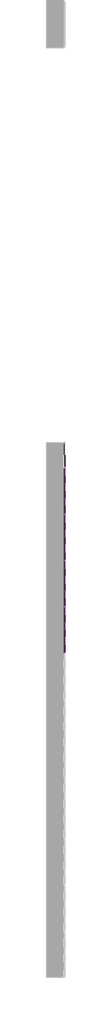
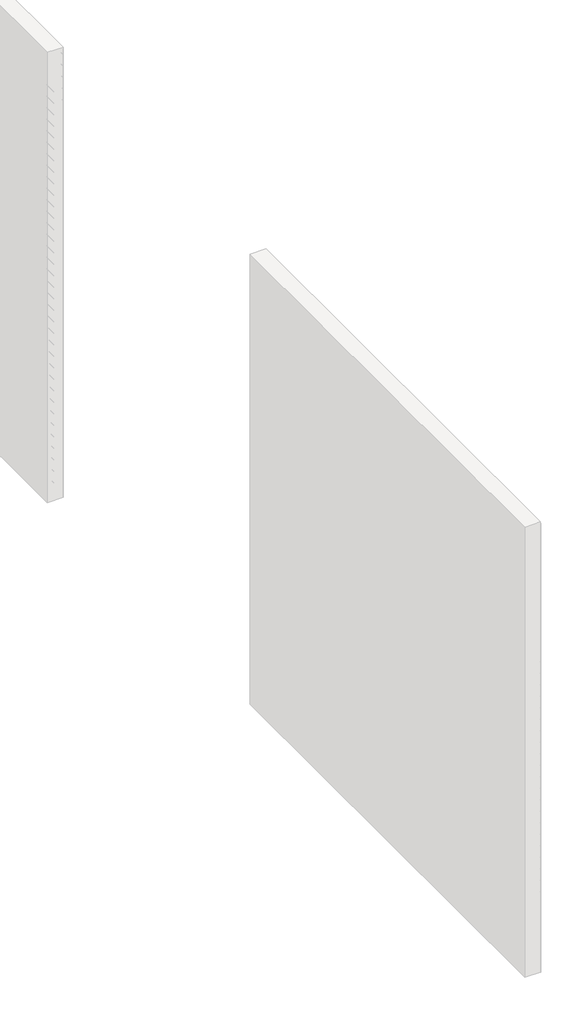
# One storey, part 11 of 45: 146 proxies.
"""IFC4 building model written with IfcOpenShell, lengths in millimetres."""

from ifc_helpers import new_model, si_unit, origin, place, context, project, spatial, transform, mapped, element, save
from components import generic_models_ab0f2c30, generic_models_1527efce

model = new_model("IFC4")

# Units and contexts
model_context = context("Model", 3, world=origin())
ifc_project = project(units=[si_unit("LENGTHUNIT", "METRE", prefix="MILLI")], contexts=[model_context])

# Site, building, storey
site = spatial("IfcSite", under=ifc_project)
building = spatial("IfcBuilding", under=site)
storey = spatial("IfcBuildingStorey", under=building, Name="PORTOBELLO - SHOWROOM", Elevation=0.0)

# Proxies
placement = place(None, origin())
generic_models_shape = generic_models_ab0f2c30(model_context)
element("IfcBuildingElementProxy", 1, Name="PBSHOP - HORIZONTES SANTORINI 6,5X23 : SANTORINI VILLA", ObjectType="PBSHOP - HORIZONTES SANTORINI 6,5X23 : SANTORINI VILLA", at=placement, inside=storey, context=model_context, shape_type="MappedRepresentation", body=[
    mapped(generic_models_shape, transform((63939.1036979, 12598.0312463, 724.5), x_axis=(0.0, 0.0, 1.0), y_axis=(0.0, -1.0, 0.0), z_axis=(1.0, 0.0, 0.0))),
])
element("IfcBuildingElementProxy", 2, Name="PBSHOP - HORIZONTES SANTORINI 6,5X23 : SANTORINI VILLA", ObjectType="PBSHOP - HORIZONTES SANTORINI 6,5X23 : SANTORINI VILLA", at=placement, inside=storey, context=model_context, shape_type="MappedRepresentation", body=[
    mapped(generic_models_shape, transform((63939.1036979, 12832.0312463, 724.5), x_axis=(0.0, 0.0, 1.0), y_axis=(0.0, -1.0, 0.0), z_axis=(1.0, 0.0, 0.0))),
])
element("IfcBuildingElementProxy", 3, Name="PBSHOP - HORIZONTES SANTORINI 6,5X23 : SANTORINI VILLA", ObjectType="PBSHOP - HORIZONTES SANTORINI 6,5X23 : SANTORINI VILLA", at=placement, inside=storey, context=model_context, shape_type="MappedRepresentation", body=[
    mapped(generic_models_shape, transform((63939.1036979, 12130.0312463, 793.5), x_axis=(0.0, 0.0, 1.0), y_axis=(0.0, -1.0, 0.0), z_axis=(1.0, 0.0, 0.0))),
])
element("IfcBuildingElementProxy", 4, Name="PBSHOP - HORIZONTES SANTORINI 6,5X23 : SANTORINI VILLA", ObjectType="PBSHOP - HORIZONTES SANTORINI 6,5X23 : SANTORINI VILLA", at=placement, inside=storey, context=model_context, shape_type="MappedRepresentation", body=[
    mapped(generic_models_shape, transform((63939.1036979, 12364.0312463, 793.5), x_axis=(0.0, 0.0, 1.0), y_axis=(0.0, -1.0, 0.0), z_axis=(1.0, 0.0, 0.0))),
])
element("IfcBuildingElementProxy", 5, Name="PBSHOP - HORIZONTES SANTORINI 6,5X23 : SANTORINI VILLA", ObjectType="PBSHOP - HORIZONTES SANTORINI 6,5X23 : SANTORINI VILLA", at=placement, inside=storey, context=model_context, shape_type="MappedRepresentation", body=[
    mapped(generic_models_shape, transform((63939.1036979, 12598.0312463, 793.5), x_axis=(0.0, 0.0, 1.0), y_axis=(0.0, -1.0, 0.0), z_axis=(1.0, 0.0, 0.0))),
])
element("IfcBuildingElementProxy", 6, Name="PBSHOP - HORIZONTES SANTORINI 6,5X23 : SANTORINI VILLA", ObjectType="PBSHOP - HORIZONTES SANTORINI 6,5X23 : SANTORINI VILLA", at=placement, inside=storey, context=model_context, shape_type="MappedRepresentation", body=[
    mapped(generic_models_shape, transform((63939.1036979, 12832.0312463, 793.5), x_axis=(0.0, 0.0, 1.0), y_axis=(0.0, -1.0, 0.0), z_axis=(1.0, 0.0, 0.0))),
])
element("IfcBuildingElementProxy", 7, Name="PBSHOP - HORIZONTES SANTORINI 6,5X23 : SANTORINI VILLA", ObjectType="PBSHOP - HORIZONTES SANTORINI 6,5X23 : SANTORINI VILLA", at=placement, inside=storey, context=model_context, shape_type="MappedRepresentation", body=[
    mapped(generic_models_shape, transform((63939.1036979, 12130.0312463, 862.5), x_axis=(0.0, 0.0, 1.0), y_axis=(0.0, -1.0, 0.0), z_axis=(1.0, 0.0, 0.0))),
])
element("IfcBuildingElementProxy", 8, Name="PBSHOP - HORIZONTES SANTORINI 6,5X23 : SANTORINI VILLA", ObjectType="PBSHOP - HORIZONTES SANTORINI 6,5X23 : SANTORINI VILLA", at=placement, inside=storey, context=model_context, shape_type="MappedRepresentation", body=[
    mapped(generic_models_shape, transform((63939.1036979, 12364.0312463, 862.5), x_axis=(0.0, 0.0, 1.0), y_axis=(0.0, -1.0, 0.0), z_axis=(1.0, 0.0, 0.0))),
])
element("IfcBuildingElementProxy", 9, Name="PBSHOP - HORIZONTES SANTORINI 6,5X23 : SANTORINI VILLA", ObjectType="PBSHOP - HORIZONTES SANTORINI 6,5X23 : SANTORINI VILLA", at=placement, inside=storey, context=model_context, shape_type="MappedRepresentation", body=[
    mapped(generic_models_shape, transform((63939.1036979, 12598.0312463, 862.5), x_axis=(0.0, 0.0, 1.0), y_axis=(0.0, -1.0, 0.0), z_axis=(1.0, 0.0, 0.0))),
])
element("IfcBuildingElementProxy", 10, Name="PBSHOP - HORIZONTES SANTORINI 6,5X23 : SANTORINI VILLA", ObjectType="PBSHOP - HORIZONTES SANTORINI 6,5X23 : SANTORINI VILLA", at=placement, inside=storey, context=model_context, shape_type="MappedRepresentation", body=[
    mapped(generic_models_shape, transform((63939.1036979, 12832.0312463, 862.5), x_axis=(0.0, 0.0, 1.0), y_axis=(0.0, -1.0, 0.0), z_axis=(1.0, 0.0, 0.0))),
])
element("IfcBuildingElementProxy", 11, Name="PBSHOP - HORIZONTES SANTORINI 6,5X23 : SANTORINI VILLA", ObjectType="PBSHOP - HORIZONTES SANTORINI 6,5X23 : SANTORINI VILLA", at=placement, inside=storey, context=model_context, shape_type="MappedRepresentation", body=[
    mapped(generic_models_shape, transform((63939.1036979, 12130.0312463, 931.5), x_axis=(0.0, 0.0, 1.0), y_axis=(0.0, -1.0, 0.0), z_axis=(1.0, 0.0, 0.0))),
])
element("IfcBuildingElementProxy", 12, Name="PBSHOP - HORIZONTES SANTORINI 6,5X23 : SANTORINI VILLA", ObjectType="PBSHOP - HORIZONTES SANTORINI 6,5X23 : SANTORINI VILLA", at=placement, inside=storey, context=model_context, shape_type="MappedRepresentation", body=[
    mapped(generic_models_shape, transform((63939.1036979, 12364.0312463, 931.5), x_axis=(0.0, 0.0, 1.0), y_axis=(0.0, -1.0, 0.0), z_axis=(1.0, 0.0, 0.0))),
])
element("IfcBuildingElementProxy", 13, Name="PBSHOP - HORIZONTES SANTORINI 6,5X23 : SANTORINI VILLA", ObjectType="PBSHOP - HORIZONTES SANTORINI 6,5X23 : SANTORINI VILLA", at=placement, inside=storey, context=model_context, shape_type="MappedRepresentation", body=[
    mapped(generic_models_shape, transform((63939.1036979, 12598.0312463, 931.5), x_axis=(0.0, 0.0, 1.0), y_axis=(0.0, -1.0, 0.0), z_axis=(1.0, 0.0, 0.0))),
])
element("IfcBuildingElementProxy", 14, Name="PBSHOP - HORIZONTES SANTORINI 6,5X23 : SANTORINI VILLA", ObjectType="PBSHOP - HORIZONTES SANTORINI 6,5X23 : SANTORINI VILLA", at=placement, inside=storey, context=model_context, shape_type="MappedRepresentation", body=[
    mapped(generic_models_shape, transform((63939.1036979, 12832.0312463, 931.5), x_axis=(0.0, 0.0, 1.0), y_axis=(0.0, -1.0, 0.0), z_axis=(1.0, 0.0, 0.0))),
])
element("IfcBuildingElementProxy", 15, Name="PBSHOP - HORIZONTES SANTORINI 6,5X23 : SANTORINI VILLA", ObjectType="PBSHOP - HORIZONTES SANTORINI 6,5X23 : SANTORINI VILLA", at=placement, inside=storey, context=model_context, shape_type="MappedRepresentation", body=[
    mapped(generic_models_shape, transform((63939.1036979, 12130.0312463, 1000.5), x_axis=(0.0, 0.0, 1.0), y_axis=(0.0, -1.0, 0.0), z_axis=(1.0, 0.0, 0.0))),
])
element("IfcBuildingElementProxy", 16, Name="PBSHOP - HORIZONTES SANTORINI 6,5X23 : SANTORINI VILLA", ObjectType="PBSHOP - HORIZONTES SANTORINI 6,5X23 : SANTORINI VILLA", at=placement, inside=storey, context=model_context, shape_type="MappedRepresentation", body=[
    mapped(generic_models_shape, transform((63939.1036979, 12364.0312463, 1000.5), x_axis=(0.0, 0.0, 1.0), y_axis=(0.0, -1.0, 0.0), z_axis=(1.0, 0.0, 0.0))),
])
element("IfcBuildingElementProxy", 17, Name="PBSHOP - HORIZONTES SANTORINI 6,5X23 : SANTORINI VILLA", ObjectType="PBSHOP - HORIZONTES SANTORINI 6,5X23 : SANTORINI VILLA", at=placement, inside=storey, context=model_context, shape_type="MappedRepresentation", body=[
    mapped(generic_models_shape, transform((63939.1036979, 12598.0312463, 1000.5), x_axis=(0.0, 0.0, 1.0), y_axis=(0.0, -1.0, 0.0), z_axis=(1.0, 0.0, 0.0))),
])
element("IfcBuildingElementProxy", 18, Name="PBSHOP - HORIZONTES SANTORINI 6,5X23 : SANTORINI VILLA", ObjectType="PBSHOP - HORIZONTES SANTORINI 6,5X23 : SANTORINI VILLA", at=placement, inside=storey, context=model_context, shape_type="MappedRepresentation", body=[
    mapped(generic_models_shape, transform((63939.1036979, 12832.0312463, 1000.5), x_axis=(0.0, 0.0, 1.0), y_axis=(0.0, -1.0, 0.0), z_axis=(1.0, 0.0, 0.0))),
])
element("IfcBuildingElementProxy", 19, Name="PBSHOP - HORIZONTES SANTORINI 6,5X23 : SANTORINI VILLA", ObjectType="PBSHOP - HORIZONTES SANTORINI 6,5X23 : SANTORINI VILLA", at=placement, inside=storey, context=model_context, shape_type="MappedRepresentation", body=[
    mapped(generic_models_shape, transform((63939.1036979, 12130.0312463, 1069.5), x_axis=(0.0, 0.0, 1.0), y_axis=(0.0, -1.0, 0.0), z_axis=(1.0, 0.0, 0.0))),
])
element("IfcBuildingElementProxy", 20, Name="PBSHOP - HORIZONTES SANTORINI 6,5X23 : SANTORINI VILLA", ObjectType="PBSHOP - HORIZONTES SANTORINI 6,5X23 : SANTORINI VILLA", at=placement, inside=storey, context=model_context, shape_type="MappedRepresentation", body=[
    mapped(generic_models_shape, transform((63939.1036979, 12364.0312463, 1069.5), x_axis=(0.0, 0.0, 1.0), y_axis=(0.0, -1.0, 0.0), z_axis=(1.0, 0.0, 0.0))),
])
element("IfcBuildingElementProxy", 21, Name="PBSHOP - HORIZONTES SANTORINI 6,5X23 : SANTORINI VILLA", ObjectType="PBSHOP - HORIZONTES SANTORINI 6,5X23 : SANTORINI VILLA", at=placement, inside=storey, context=model_context, shape_type="MappedRepresentation", body=[
    mapped(generic_models_shape, transform((63939.1036979, 12598.0312463, 1069.5), x_axis=(0.0, 0.0, 1.0), y_axis=(0.0, -1.0, 0.0), z_axis=(1.0, 0.0, 0.0))),
])
element("IfcBuildingElementProxy", 22, Name="PBSHOP - HORIZONTES SANTORINI 6,5X23 : SANTORINI VILLA", ObjectType="PBSHOP - HORIZONTES SANTORINI 6,5X23 : SANTORINI VILLA", at=placement, inside=storey, context=model_context, shape_type="MappedRepresentation", body=[
    mapped(generic_models_shape, transform((63939.1036979, 12832.0312463, 1069.5), x_axis=(0.0, 0.0, 1.0), y_axis=(0.0, -1.0, 0.0), z_axis=(1.0, 0.0, 0.0))),
])
element("IfcBuildingElementProxy", 23, Name="PBSHOP - HORIZONTES SANTORINI 6,5X23 : SANTORINI VILLA", ObjectType="PBSHOP - HORIZONTES SANTORINI 6,5X23 : SANTORINI VILLA", at=placement, inside=storey, context=model_context, shape_type="MappedRepresentation", body=[
    mapped(generic_models_shape, transform((63939.1036979, 12130.0312463, 1138.5), x_axis=(0.0, 0.0, 1.0), y_axis=(0.0, -1.0, 0.0), z_axis=(1.0, 0.0, 0.0))),
])
element("IfcBuildingElementProxy", 24, Name="PBSHOP - HORIZONTES SANTORINI 6,5X23 : SANTORINI VILLA", ObjectType="PBSHOP - HORIZONTES SANTORINI 6,5X23 : SANTORINI VILLA", at=placement, inside=storey, context=model_context, shape_type="MappedRepresentation", body=[
    mapped(generic_models_shape, transform((63939.1036979, 12364.0312463, 1138.5), x_axis=(0.0, 0.0, 1.0), y_axis=(0.0, -1.0, 0.0), z_axis=(1.0, 0.0, 0.0))),
])
element("IfcBuildingElementProxy", 25, Name="PBSHOP - HORIZONTES SANTORINI 6,5X23 : SANTORINI VILLA", ObjectType="PBSHOP - HORIZONTES SANTORINI 6,5X23 : SANTORINI VILLA", at=placement, inside=storey, context=model_context, shape_type="MappedRepresentation", body=[
    mapped(generic_models_shape, transform((63939.1036979, 12598.0312463, 1138.5), x_axis=(0.0, 0.0, 1.0), y_axis=(0.0, -1.0, 0.0), z_axis=(1.0, 0.0, 0.0))),
])
element("IfcBuildingElementProxy", 26, Name="PBSHOP - HORIZONTES SANTORINI 6,5X23 : SANTORINI VILLA", ObjectType="PBSHOP - HORIZONTES SANTORINI 6,5X23 : SANTORINI VILLA", at=placement, inside=storey, context=model_context, shape_type="MappedRepresentation", body=[
    mapped(generic_models_shape, transform((63939.1036979, 12832.0312463, 1138.5), x_axis=(0.0, 0.0, 1.0), y_axis=(0.0, -1.0, 0.0), z_axis=(1.0, 0.0, 0.0))),
])
element("IfcBuildingElementProxy", 27, Name="PBSHOP - HORIZONTES SANTORINI 6,5X23 : SANTORINI VILLA", ObjectType="PBSHOP - HORIZONTES SANTORINI 6,5X23 : SANTORINI VILLA", at=placement, inside=storey, context=model_context, shape_type="MappedRepresentation", body=[
    mapped(generic_models_shape, transform((63939.1036979, 12130.0312463, 1207.5), x_axis=(0.0, 0.0, 1.0), y_axis=(0.0, -1.0, 0.0), z_axis=(1.0, 0.0, 0.0))),
])
element("IfcBuildingElementProxy", 28, Name="PBSHOP - HORIZONTES SANTORINI 6,5X23 : SANTORINI VILLA", ObjectType="PBSHOP - HORIZONTES SANTORINI 6,5X23 : SANTORINI VILLA", at=placement, inside=storey, context=model_context, shape_type="MappedRepresentation", body=[
    mapped(generic_models_shape, transform((63939.1036979, 12364.0312463, 1207.5), x_axis=(0.0, 0.0, 1.0), y_axis=(0.0, -1.0, 0.0), z_axis=(1.0, 0.0, 0.0))),
])
element("IfcBuildingElementProxy", 29, Name="PBSHOP - HORIZONTES SANTORINI 6,5X23 : SANTORINI VILLA", ObjectType="PBSHOP - HORIZONTES SANTORINI 6,5X23 : SANTORINI VILLA", at=placement, inside=storey, context=model_context, shape_type="MappedRepresentation", body=[
    mapped(generic_models_shape, transform((63939.1036979, 12598.0312463, 1207.5), x_axis=(0.0, 0.0, 1.0), y_axis=(0.0, -1.0, 0.0), z_axis=(1.0, 0.0, 0.0))),
])
element("IfcBuildingElementProxy", 30, Name="PBSHOP - HORIZONTES SANTORINI 6,5X23 : SANTORINI VILLA", ObjectType="PBSHOP - HORIZONTES SANTORINI 6,5X23 : SANTORINI VILLA", at=placement, inside=storey, context=model_context, shape_type="MappedRepresentation", body=[
    mapped(generic_models_shape, transform((63939.1036979, 12832.0312463, 1207.5), x_axis=(0.0, 0.0, 1.0), y_axis=(0.0, -1.0, 0.0), z_axis=(1.0, 0.0, 0.0))),
])
element("IfcBuildingElementProxy", 31, Name="PBSHOP - HORIZONTES SANTORINI 6,5X23 : SANTORINI VILLA", ObjectType="PBSHOP - HORIZONTES SANTORINI 6,5X23 : SANTORINI VILLA", at=placement, inside=storey, context=model_context, shape_type="MappedRepresentation", body=[
    mapped(generic_models_shape, transform((63939.1036979, 12130.0312463, 1276.5), x_axis=(0.0, 0.0, 1.0), y_axis=(0.0, -1.0, 0.0), z_axis=(1.0, 0.0, 0.0))),
])
element("IfcBuildingElementProxy", 32, Name="PBSHOP - HORIZONTES SANTORINI 6,5X23 : SANTORINI VILLA", ObjectType="PBSHOP - HORIZONTES SANTORINI 6,5X23 : SANTORINI VILLA", at=placement, inside=storey, context=model_context, shape_type="MappedRepresentation", body=[
    mapped(generic_models_shape, transform((63939.1036979, 12364.0312463, 1276.5), x_axis=(0.0, 0.0, 1.0), y_axis=(0.0, -1.0, 0.0), z_axis=(1.0, 0.0, 0.0))),
])
element("IfcBuildingElementProxy", 33, Name="PBSHOP - HORIZONTES SANTORINI 6,5X23 : SANTORINI VILLA", ObjectType="PBSHOP - HORIZONTES SANTORINI 6,5X23 : SANTORINI VILLA", at=placement, inside=storey, context=model_context, shape_type="MappedRepresentation", body=[
    mapped(generic_models_shape, transform((63939.1036979, 12598.0312463, 1276.5), x_axis=(0.0, 0.0, 1.0), y_axis=(0.0, -1.0, 0.0), z_axis=(1.0, 0.0, 0.0))),
])
element("IfcBuildingElementProxy", 34, Name="PBSHOP - HORIZONTES SANTORINI 6,5X23 : SANTORINI VILLA", ObjectType="PBSHOP - HORIZONTES SANTORINI 6,5X23 : SANTORINI VILLA", at=placement, inside=storey, context=model_context, shape_type="MappedRepresentation", body=[
    mapped(generic_models_shape, transform((63939.1036979, 12832.0312463, 1276.5), x_axis=(0.0, 0.0, 1.0), y_axis=(0.0, -1.0, 0.0), z_axis=(1.0, 0.0, 0.0))),
])
element("IfcBuildingElementProxy", 35, Name="PBSHOP - HORIZONTES SANTORINI 6,5X23 : SANTORINI VILLA", ObjectType="PBSHOP - HORIZONTES SANTORINI 6,5X23 : SANTORINI VILLA", at=placement, inside=storey, context=model_context, shape_type="MappedRepresentation", body=[
    mapped(generic_models_shape, transform((63939.1036979, 12130.0312463, 1345.5), x_axis=(0.0, 0.0, 1.0), y_axis=(0.0, -1.0, 0.0), z_axis=(1.0, 0.0, 0.0))),
])
element("IfcBuildingElementProxy", 36, Name="PBSHOP - HORIZONTES SANTORINI 6,5X23 : SANTORINI VILLA", ObjectType="PBSHOP - HORIZONTES SANTORINI 6,5X23 : SANTORINI VILLA", at=placement, inside=storey, context=model_context, shape_type="MappedRepresentation", body=[
    mapped(generic_models_shape, transform((63939.1036979, 12364.0312463, 1345.5), x_axis=(0.0, 0.0, 1.0), y_axis=(0.0, -1.0, 0.0), z_axis=(1.0, 0.0, 0.0))),
])
element("IfcBuildingElementProxy", 37, Name="PBSHOP - HORIZONTES SANTORINI 6,5X23 : SANTORINI VILLA", ObjectType="PBSHOP - HORIZONTES SANTORINI 6,5X23 : SANTORINI VILLA", at=placement, inside=storey, context=model_context, shape_type="MappedRepresentation", body=[
    mapped(generic_models_shape, transform((63939.1036979, 12598.0312463, 1345.5), x_axis=(0.0, 0.0, 1.0), y_axis=(0.0, -1.0, 0.0), z_axis=(1.0, 0.0, 0.0))),
])
element("IfcBuildingElementProxy", 38, Name="PBSHOP - HORIZONTES SANTORINI 6,5X23 : SANTORINI VILLA", ObjectType="PBSHOP - HORIZONTES SANTORINI 6,5X23 : SANTORINI VILLA", at=placement, inside=storey, context=model_context, shape_type="MappedRepresentation", body=[
    mapped(generic_models_shape, transform((63939.1036979, 12832.0312463, 1345.5), x_axis=(0.0, 0.0, 1.0), y_axis=(0.0, -1.0, 0.0), z_axis=(1.0, 0.0, 0.0))),
])
element("IfcBuildingElementProxy", 39, Name="PBSHOP - HORIZONTES SANTORINI 6,5X23 : SANTORINI VILLA", ObjectType="PBSHOP - HORIZONTES SANTORINI 6,5X23 : SANTORINI VILLA", at=placement, inside=storey, context=model_context, shape_type="MappedRepresentation", body=[
    mapped(generic_models_shape, transform((63939.1036979, 12130.0312463, 1414.5), x_axis=(0.0, 0.0, 1.0), y_axis=(0.0, -1.0, 0.0), z_axis=(1.0, 0.0, 0.0))),
])
element("IfcBuildingElementProxy", 40, Name="PBSHOP - HORIZONTES SANTORINI 6,5X23 : SANTORINI VILLA", ObjectType="PBSHOP - HORIZONTES SANTORINI 6,5X23 : SANTORINI VILLA", at=placement, inside=storey, context=model_context, shape_type="MappedRepresentation", body=[
    mapped(generic_models_shape, transform((63939.1036979, 12364.0312463, 1414.5), x_axis=(0.0, 0.0, 1.0), y_axis=(0.0, -1.0, 0.0), z_axis=(1.0, 0.0, 0.0))),
])
element("IfcBuildingElementProxy", 41, Name="PBSHOP - HORIZONTES SANTORINI 6,5X23 : SANTORINI VILLA", ObjectType="PBSHOP - HORIZONTES SANTORINI 6,5X23 : SANTORINI VILLA", at=placement, inside=storey, context=model_context, shape_type="MappedRepresentation", body=[
    mapped(generic_models_shape, transform((63939.1036979, 12598.0312463, 1414.5), x_axis=(0.0, 0.0, 1.0), y_axis=(0.0, -1.0, 0.0), z_axis=(1.0, 0.0, 0.0))),
])
element("IfcBuildingElementProxy", 42, Name="PBSHOP - HORIZONTES SANTORINI 6,5X23 : SANTORINI VILLA", ObjectType="PBSHOP - HORIZONTES SANTORINI 6,5X23 : SANTORINI VILLA", at=placement, inside=storey, context=model_context, shape_type="MappedRepresentation", body=[
    mapped(generic_models_shape, transform((63939.1036979, 12832.0312463, 1414.5), x_axis=(0.0, 0.0, 1.0), y_axis=(0.0, -1.0, 0.0), z_axis=(1.0, 0.0, 0.0))),
])
element("IfcBuildingElementProxy", 43, Name="PBSHOP - HORIZONTES SANTORINI 6,5X23 : SANTORINI VILLA", ObjectType="PBSHOP - HORIZONTES SANTORINI 6,5X23 : SANTORINI VILLA", at=placement, inside=storey, context=model_context, shape_type="MappedRepresentation", body=[
    mapped(generic_models_shape, transform((63939.1036979, 12130.0312463, 1483.5), x_axis=(0.0, 0.0, 1.0), y_axis=(0.0, -1.0, 0.0), z_axis=(1.0, 0.0, 0.0))),
])
element("IfcBuildingElementProxy", 44, Name="PBSHOP - HORIZONTES SANTORINI 6,5X23 : SANTORINI VILLA", ObjectType="PBSHOP - HORIZONTES SANTORINI 6,5X23 : SANTORINI VILLA", at=placement, inside=storey, context=model_context, shape_type="MappedRepresentation", body=[
    mapped(generic_models_shape, transform((63939.1036979, 12364.0312463, 1483.5), x_axis=(0.0, 0.0, 1.0), y_axis=(0.0, -1.0, 0.0), z_axis=(1.0, 0.0, 0.0))),
])
element("IfcBuildingElementProxy", 45, Name="PBSHOP - HORIZONTES SANTORINI 6,5X23 : SANTORINI VILLA", ObjectType="PBSHOP - HORIZONTES SANTORINI 6,5X23 : SANTORINI VILLA", at=placement, inside=storey, context=model_context, shape_type="MappedRepresentation", body=[
    mapped(generic_models_shape, transform((63939.1036979, 12598.0312463, 1483.5), x_axis=(0.0, 0.0, 1.0), y_axis=(0.0, -1.0, 0.0), z_axis=(1.0, 0.0, 0.0))),
])
element("IfcBuildingElementProxy", 46, Name="PBSHOP - HORIZONTES SANTORINI 6,5X23 : SANTORINI VILLA", ObjectType="PBSHOP - HORIZONTES SANTORINI 6,5X23 : SANTORINI VILLA", at=placement, inside=storey, context=model_context, shape_type="MappedRepresentation", body=[
    mapped(generic_models_shape, transform((63939.1036979, 12832.0312463, 1483.5), x_axis=(0.0, 0.0, 1.0), y_axis=(0.0, -1.0, 0.0), z_axis=(1.0, 0.0, 0.0))),
])
element("IfcBuildingElementProxy", 47, Name="PBSHOP - HORIZONTES SANTORINI 6,5X23 : SANTORINI VILLA", ObjectType="PBSHOP - HORIZONTES SANTORINI 6,5X23 : SANTORINI VILLA", at=placement, inside=storey, context=model_context, shape_type="MappedRepresentation", body=[
    mapped(generic_models_shape, transform((63939.1036979, 12130.0312463, 1552.5), x_axis=(0.0, 0.0, 1.0), y_axis=(0.0, -1.0, 0.0), z_axis=(1.0, 0.0, 0.0))),
])
element("IfcBuildingElementProxy", 48, Name="PBSHOP - HORIZONTES SANTORINI 6,5X23 : SANTORINI VILLA", ObjectType="PBSHOP - HORIZONTES SANTORINI 6,5X23 : SANTORINI VILLA", at=placement, inside=storey, context=model_context, shape_type="MappedRepresentation", body=[
    mapped(generic_models_shape, transform((63939.1036979, 12364.0312463, 1552.5), x_axis=(0.0, 0.0, 1.0), y_axis=(0.0, -1.0, 0.0), z_axis=(1.0, 0.0, 0.0))),
])
element("IfcBuildingElementProxy", 49, Name="PBSHOP - HORIZONTES SANTORINI 6,5X23 : SANTORINI VILLA", ObjectType="PBSHOP - HORIZONTES SANTORINI 6,5X23 : SANTORINI VILLA", at=placement, inside=storey, context=model_context, shape_type="MappedRepresentation", body=[
    mapped(generic_models_shape, transform((63939.1036979, 12598.0312463, 1552.5), x_axis=(0.0, 0.0, 1.0), y_axis=(0.0, -1.0, 0.0), z_axis=(1.0, 0.0, 0.0))),
])
element("IfcBuildingElementProxy", 50, Name="PBSHOP - HORIZONTES SANTORINI 6,5X23 : SANTORINI VILLA", ObjectType="PBSHOP - HORIZONTES SANTORINI 6,5X23 : SANTORINI VILLA", at=placement, inside=storey, context=model_context, shape_type="MappedRepresentation", body=[
    mapped(generic_models_shape, transform((63939.1036979, 12832.0312463, 1552.5), x_axis=(0.0, 0.0, 1.0), y_axis=(0.0, -1.0, 0.0), z_axis=(1.0, 0.0, 0.0))),
])
element("IfcBuildingElementProxy", 51, Name="PBSHOP - HORIZONTES SANTORINI 6,5X23 : SANTORINI VILLA", ObjectType="PBSHOP - HORIZONTES SANTORINI 6,5X23 : SANTORINI VILLA", at=placement, inside=storey, context=model_context, shape_type="MappedRepresentation", body=[
    mapped(generic_models_shape, transform((63939.1036979, 12130.0312463, 1621.5), x_axis=(0.0, 0.0, 1.0), y_axis=(0.0, -1.0, 0.0), z_axis=(1.0, 0.0, 0.0))),
])
element("IfcBuildingElementProxy", 52, Name="PBSHOP - HORIZONTES SANTORINI 6,5X23 : SANTORINI VILLA", ObjectType="PBSHOP - HORIZONTES SANTORINI 6,5X23 : SANTORINI VILLA", at=placement, inside=storey, context=model_context, shape_type="MappedRepresentation", body=[
    mapped(generic_models_shape, transform((63939.1036979, 12364.0312463, 1621.5), x_axis=(0.0, 0.0, 1.0), y_axis=(0.0, -1.0, 0.0), z_axis=(1.0, 0.0, 0.0))),
])
element("IfcBuildingElementProxy", 53, Name="PBSHOP - HORIZONTES SANTORINI 6,5X23 : SANTORINI VILLA", ObjectType="PBSHOP - HORIZONTES SANTORINI 6,5X23 : SANTORINI VILLA", at=placement, inside=storey, context=model_context, shape_type="MappedRepresentation", body=[
    mapped(generic_models_shape, transform((63939.1036979, 12598.0312463, 1621.5), x_axis=(0.0, 0.0, 1.0), y_axis=(0.0, -1.0, 0.0), z_axis=(1.0, 0.0, 0.0))),
])
element("IfcBuildingElementProxy", 54, Name="PBSHOP - HORIZONTES SANTORINI 6,5X23 : SANTORINI VILLA", ObjectType="PBSHOP - HORIZONTES SANTORINI 6,5X23 : SANTORINI VILLA", at=placement, inside=storey, context=model_context, shape_type="MappedRepresentation", body=[
    mapped(generic_models_shape, transform((63939.1036979, 12832.0312463, 1621.5), x_axis=(0.0, 0.0, 1.0), y_axis=(0.0, -1.0, 0.0), z_axis=(1.0, 0.0, 0.0))),
])
element("IfcBuildingElementProxy", 55, Name="PBSHOP - HORIZONTES SANTORINI 6,5X23 : SANTORINI VILLA", ObjectType="PBSHOP - HORIZONTES SANTORINI 6,5X23 : SANTORINI VILLA", at=placement, inside=storey, context=model_context, shape_type="MappedRepresentation", body=[
    mapped(generic_models_shape, transform((63939.1036979, 12130.0312463, 1690.5), x_axis=(0.0, 0.0, 1.0), y_axis=(0.0, -1.0, 0.0), z_axis=(1.0, 0.0, 0.0))),
])
element("IfcBuildingElementProxy", 56, Name="PBSHOP - HORIZONTES SANTORINI 6,5X23 : SANTORINI VILLA", ObjectType="PBSHOP - HORIZONTES SANTORINI 6,5X23 : SANTORINI VILLA", at=placement, inside=storey, context=model_context, shape_type="MappedRepresentation", body=[
    mapped(generic_models_shape, transform((63939.1036979, 12364.0312463, 1690.5), x_axis=(0.0, 0.0, 1.0), y_axis=(0.0, -1.0, 0.0), z_axis=(1.0, 0.0, 0.0))),
])
element("IfcBuildingElementProxy", 57, Name="PBSHOP - HORIZONTES SANTORINI 6,5X23 : SANTORINI VILLA", ObjectType="PBSHOP - HORIZONTES SANTORINI 6,5X23 : SANTORINI VILLA", at=placement, inside=storey, context=model_context, shape_type="MappedRepresentation", body=[
    mapped(generic_models_shape, transform((63939.1036979, 12598.0312463, 1690.5), x_axis=(0.0, 0.0, 1.0), y_axis=(0.0, -1.0, 0.0), z_axis=(1.0, 0.0, 0.0))),
])
element("IfcBuildingElementProxy", 58, Name="PBSHOP - HORIZONTES SANTORINI 6,5X23 : SANTORINI VILLA", ObjectType="PBSHOP - HORIZONTES SANTORINI 6,5X23 : SANTORINI VILLA", at=placement, inside=storey, context=model_context, shape_type="MappedRepresentation", body=[
    mapped(generic_models_shape, transform((63939.1036979, 12832.0312463, 1690.5), x_axis=(0.0, 0.0, 1.0), y_axis=(0.0, -1.0, 0.0), z_axis=(1.0, 0.0, 0.0))),
])
element("IfcBuildingElementProxy", 59, Name="PBSHOP - HORIZONTES SANTORINI 6,5X23 : SANTORINI VILLA", ObjectType="PBSHOP - HORIZONTES SANTORINI 6,5X23 : SANTORINI VILLA", at=placement, inside=storey, context=model_context, shape_type="MappedRepresentation", body=[
    mapped(generic_models_shape, transform((63939.1036979, 12130.0312463, 1759.5), x_axis=(0.0, 0.0, 1.0), y_axis=(0.0, -1.0, 0.0), z_axis=(1.0, 0.0, 0.0))),
])
element("IfcBuildingElementProxy", 60, Name="PBSHOP - HORIZONTES SANTORINI 6,5X23 : SANTORINI VILLA", ObjectType="PBSHOP - HORIZONTES SANTORINI 6,5X23 : SANTORINI VILLA", at=placement, inside=storey, context=model_context, shape_type="MappedRepresentation", body=[
    mapped(generic_models_shape, transform((63939.1036979, 12364.0312463, 1759.5), x_axis=(0.0, 0.0, 1.0), y_axis=(0.0, -1.0, 0.0), z_axis=(1.0, 0.0, 0.0))),
])
element("IfcBuildingElementProxy", 61, Name="PBSHOP - HORIZONTES SANTORINI 6,5X23 : SANTORINI VILLA", ObjectType="PBSHOP - HORIZONTES SANTORINI 6,5X23 : SANTORINI VILLA", at=placement, inside=storey, context=model_context, shape_type="MappedRepresentation", body=[
    mapped(generic_models_shape, transform((63939.1036979, 12598.0312463, 1759.5), x_axis=(0.0, 0.0, 1.0), y_axis=(0.0, -1.0, 0.0), z_axis=(1.0, 0.0, 0.0))),
])
element("IfcBuildingElementProxy", 62, Name="PBSHOP - HORIZONTES SANTORINI 6,5X23 : SANTORINI VILLA", ObjectType="PBSHOP - HORIZONTES SANTORINI 6,5X23 : SANTORINI VILLA", at=placement, inside=storey, context=model_context, shape_type="MappedRepresentation", body=[
    mapped(generic_models_shape, transform((63939.1036979, 12832.0312463, 1759.5), x_axis=(0.0, 0.0, 1.0), y_axis=(0.0, -1.0, 0.0), z_axis=(1.0, 0.0, 0.0))),
])
element("IfcBuildingElementProxy", 63, Name="PBSHOP - HORIZONTES SANTORINI 6,5X23 : SANTORINI VILLA", ObjectType="PBSHOP - HORIZONTES SANTORINI 6,5X23 : SANTORINI VILLA", at=placement, inside=storey, context=model_context, shape_type="MappedRepresentation", body=[
    mapped(generic_models_shape, transform((63939.1036979, 12130.0312463, 1828.5), x_axis=(0.0, 0.0, 1.0), y_axis=(0.0, -1.0, 0.0), z_axis=(1.0, 0.0, 0.0))),
])
element("IfcBuildingElementProxy", 64, Name="PBSHOP - HORIZONTES SANTORINI 6,5X23 : SANTORINI VILLA", ObjectType="PBSHOP - HORIZONTES SANTORINI 6,5X23 : SANTORINI VILLA", at=placement, inside=storey, context=model_context, shape_type="MappedRepresentation", body=[
    mapped(generic_models_shape, transform((63939.1036979, 12364.0312463, 1828.5), x_axis=(0.0, 0.0, 1.0), y_axis=(0.0, -1.0, 0.0), z_axis=(1.0, 0.0, 0.0))),
])
element("IfcBuildingElementProxy", 65, Name="PBSHOP - HORIZONTES SANTORINI 6,5X23 : SANTORINI VILLA", ObjectType="PBSHOP - HORIZONTES SANTORINI 6,5X23 : SANTORINI VILLA", at=placement, inside=storey, context=model_context, shape_type="MappedRepresentation", body=[
    mapped(generic_models_shape, transform((63939.1036979, 12598.0312463, 1828.5), x_axis=(0.0, 0.0, 1.0), y_axis=(0.0, -1.0, 0.0), z_axis=(1.0, 0.0, 0.0))),
])
element("IfcBuildingElementProxy", 66, Name="PBSHOP - HORIZONTES SANTORINI 6,5X23 : SANTORINI VILLA", ObjectType="PBSHOP - HORIZONTES SANTORINI 6,5X23 : SANTORINI VILLA", at=placement, inside=storey, context=model_context, shape_type="MappedRepresentation", body=[
    mapped(generic_models_shape, transform((63939.1036979, 12832.0312463, 1828.5), x_axis=(0.0, 0.0, 1.0), y_axis=(0.0, -1.0, 0.0), z_axis=(1.0, 0.0, 0.0))),
])
element("IfcBuildingElementProxy", 67, Name="PBSHOP - HORIZONTES SANTORINI 6,5X23 : SANTORINI VILLA", ObjectType="PBSHOP - HORIZONTES SANTORINI 6,5X23 : SANTORINI VILLA", at=placement, inside=storey, context=model_context, shape_type="MappedRepresentation", body=[
    mapped(generic_models_shape, transform((63939.1036979, 12130.0312463, 1897.5), x_axis=(0.0, 0.0, 1.0), y_axis=(0.0, -1.0, 0.0), z_axis=(1.0, 0.0, 0.0))),
])
element("IfcBuildingElementProxy", 68, Name="PBSHOP - HORIZONTES SANTORINI 6,5X23 : SANTORINI VILLA", ObjectType="PBSHOP - HORIZONTES SANTORINI 6,5X23 : SANTORINI VILLA", at=placement, inside=storey, context=model_context, shape_type="MappedRepresentation", body=[
    mapped(generic_models_shape, transform((63939.1036979, 12364.0312463, 1897.5), x_axis=(0.0, 0.0, 1.0), y_axis=(0.0, -1.0, 0.0), z_axis=(1.0, 0.0, 0.0))),
])
element("IfcBuildingElementProxy", 69, Name="PBSHOP - HORIZONTES SANTORINI 6,5X23 : SANTORINI VILLA", ObjectType="PBSHOP - HORIZONTES SANTORINI 6,5X23 : SANTORINI VILLA", at=placement, inside=storey, context=model_context, shape_type="MappedRepresentation", body=[
    mapped(generic_models_shape, transform((63939.1036979, 12598.0312463, 1897.5), x_axis=(0.0, 0.0, 1.0), y_axis=(0.0, -1.0, 0.0), z_axis=(1.0, 0.0, 0.0))),
])
element("IfcBuildingElementProxy", 70, Name="PBSHOP - HORIZONTES SANTORINI 6,5X23 : SANTORINI VILLA", ObjectType="PBSHOP - HORIZONTES SANTORINI 6,5X23 : SANTORINI VILLA", at=placement, inside=storey, context=model_context, shape_type="MappedRepresentation", body=[
    mapped(generic_models_shape, transform((63939.1036979, 12832.0312463, 1897.5), x_axis=(0.0, 0.0, 1.0), y_axis=(0.0, -1.0, 0.0), z_axis=(1.0, 0.0, 0.0))),
])
element("IfcBuildingElementProxy", 71, Name="PBSHOP - HORIZONTES SANTORINI 6,5X23 : SANTORINI VILLA", ObjectType="PBSHOP - HORIZONTES SANTORINI 6,5X23 : SANTORINI VILLA", at=placement, inside=storey, context=model_context, shape_type="MappedRepresentation", body=[
    mapped(generic_models_shape, transform((63939.1036979, 12130.0312463, 1966.5), x_axis=(0.0, 0.0, 1.0), y_axis=(0.0, -1.0, 0.0), z_axis=(1.0, 0.0, 0.0))),
])
element("IfcBuildingElementProxy", 72, Name="PBSHOP - HORIZONTES SANTORINI 6,5X23 : SANTORINI VILLA", ObjectType="PBSHOP - HORIZONTES SANTORINI 6,5X23 : SANTORINI VILLA", at=placement, inside=storey, context=model_context, shape_type="MappedRepresentation", body=[
    mapped(generic_models_shape, transform((63939.1036979, 12364.0312463, 1966.5), x_axis=(0.0, 0.0, 1.0), y_axis=(0.0, -1.0, 0.0), z_axis=(1.0, 0.0, 0.0))),
])
element("IfcBuildingElementProxy", 73, Name="PBSHOP - HORIZONTES SANTORINI 6,5X23 : SANTORINI VILLA", ObjectType="PBSHOP - HORIZONTES SANTORINI 6,5X23 : SANTORINI VILLA", at=placement, inside=storey, context=model_context, shape_type="MappedRepresentation", body=[
    mapped(generic_models_shape, transform((63939.1036979, 12598.0312463, 1966.5), x_axis=(0.0, 0.0, 1.0), y_axis=(0.0, -1.0, 0.0), z_axis=(1.0, 0.0, 0.0))),
])
element("IfcBuildingElementProxy", 74, Name="PBSHOP - HORIZONTES SANTORINI 6,5X23 : SANTORINI VILLA", ObjectType="PBSHOP - HORIZONTES SANTORINI 6,5X23 : SANTORINI VILLA", at=placement, inside=storey, context=model_context, shape_type="MappedRepresentation", body=[
    mapped(generic_models_shape, transform((63939.1036979, 12832.0312463, 1966.5), x_axis=(0.0, 0.0, 1.0), y_axis=(0.0, -1.0, 0.0), z_axis=(1.0, 0.0, 0.0))),
])
element("IfcBuildingElementProxy", 75, Name="PBSHOP - HORIZONTES SANTORINI 6,5X23 : SANTORINI VILLA", ObjectType="PBSHOP - HORIZONTES SANTORINI 6,5X23 : SANTORINI VILLA", at=placement, inside=storey, context=model_context, shape_type="MappedRepresentation", body=[
    mapped(generic_models_shape, transform((63939.1036979, 12130.0312463, 2035.5), x_axis=(0.0, 0.0, 1.0), y_axis=(0.0, -1.0, 0.0), z_axis=(1.0, 0.0, 0.0))),
])
element("IfcBuildingElementProxy", 76, Name="PBSHOP - HORIZONTES SANTORINI 6,5X23 : SANTORINI VILLA", ObjectType="PBSHOP - HORIZONTES SANTORINI 6,5X23 : SANTORINI VILLA", at=placement, inside=storey, context=model_context, shape_type="MappedRepresentation", body=[
    mapped(generic_models_shape, transform((63939.1036979, 12364.0312463, 2035.5), x_axis=(0.0, 0.0, 1.0), y_axis=(0.0, -1.0, 0.0), z_axis=(1.0, 0.0, 0.0))),
])
element("IfcBuildingElementProxy", 77, Name="PBSHOP - HORIZONTES SANTORINI 6,5X23 : SANTORINI VILLA", ObjectType="PBSHOP - HORIZONTES SANTORINI 6,5X23 : SANTORINI VILLA", at=placement, inside=storey, context=model_context, shape_type="MappedRepresentation", body=[
    mapped(generic_models_shape, transform((63939.1036979, 12598.0312463, 2035.5), x_axis=(0.0, 0.0, 1.0), y_axis=(0.0, -1.0, 0.0), z_axis=(1.0, 0.0, 0.0))),
])
element("IfcBuildingElementProxy", 78, Name="PBSHOP - HORIZONTES SANTORINI 6,5X23 : SANTORINI VILLA", ObjectType="PBSHOP - HORIZONTES SANTORINI 6,5X23 : SANTORINI VILLA", at=placement, inside=storey, context=model_context, shape_type="MappedRepresentation", body=[
    mapped(generic_models_shape, transform((63939.1036979, 12832.0312463, 2035.5), x_axis=(0.0, 0.0, 1.0), y_axis=(0.0, -1.0, 0.0), z_axis=(1.0, 0.0, 0.0))),
])
element("IfcBuildingElementProxy", 79, Name="PBSHOP - HORIZONTES SANTORINI 6,5X23 : SANTORINI VILLA", ObjectType="PBSHOP - HORIZONTES SANTORINI 6,5X23 : SANTORINI VILLA", at=placement, inside=storey, context=model_context, shape_type="MappedRepresentation", body=[
    mapped(generic_models_shape, transform((63939.1036979, 12130.0312463, 2104.5), x_axis=(0.0, 0.0, 1.0), y_axis=(0.0, -1.0, 0.0), z_axis=(1.0, 0.0, 0.0))),
])
element("IfcBuildingElementProxy", 80, Name="PBSHOP - HORIZONTES SANTORINI 6,5X23 : SANTORINI VILLA", ObjectType="PBSHOP - HORIZONTES SANTORINI 6,5X23 : SANTORINI VILLA", at=placement, inside=storey, context=model_context, shape_type="MappedRepresentation", body=[
    mapped(generic_models_shape, transform((63939.1036979, 12364.0312463, 2104.5), x_axis=(0.0, 0.0, 1.0), y_axis=(0.0, -1.0, 0.0), z_axis=(1.0, 0.0, 0.0))),
])
element("IfcBuildingElementProxy", 81, Name="PBSHOP - HORIZONTES SANTORINI 6,5X23 : SANTORINI VILLA", ObjectType="PBSHOP - HORIZONTES SANTORINI 6,5X23 : SANTORINI VILLA", at=placement, inside=storey, context=model_context, shape_type="MappedRepresentation", body=[
    mapped(generic_models_shape, transform((63939.1036979, 12598.0312463, 2104.5), x_axis=(0.0, 0.0, 1.0), y_axis=(0.0, -1.0, 0.0), z_axis=(1.0, 0.0, 0.0))),
])
element("IfcBuildingElementProxy", 82, Name="PBSHOP - HORIZONTES SANTORINI 6,5X23 : SANTORINI VILLA", ObjectType="PBSHOP - HORIZONTES SANTORINI 6,5X23 : SANTORINI VILLA", at=placement, inside=storey, context=model_context, shape_type="MappedRepresentation", body=[
    mapped(generic_models_shape, transform((63939.1036979, 12832.0312463, 2104.5), x_axis=(0.0, 0.0, 1.0), y_axis=(0.0, -1.0, 0.0), z_axis=(1.0, 0.0, 0.0))),
])
element("IfcBuildingElementProxy", 83, Name="PBSHOP - HORIZONTES SANTORINI 6,5X23 : SANTORINI VILLA", ObjectType="PBSHOP - HORIZONTES SANTORINI 6,5X23 : SANTORINI VILLA", at=placement, inside=storey, context=model_context, shape_type="MappedRepresentation", body=[
    mapped(generic_models_shape, transform((63939.1036979, 12130.0312463, 2173.5), x_axis=(0.0, 0.0, 1.0), y_axis=(0.0, -1.0, 0.0), z_axis=(1.0, 0.0, 0.0))),
])
element("IfcBuildingElementProxy", 84, Name="PBSHOP - HORIZONTES SANTORINI 6,5X23 : SANTORINI VILLA", ObjectType="PBSHOP - HORIZONTES SANTORINI 6,5X23 : SANTORINI VILLA", at=placement, inside=storey, context=model_context, shape_type="MappedRepresentation", body=[
    mapped(generic_models_shape, transform((63939.1036979, 12364.0312463, 2173.5), x_axis=(0.0, 0.0, 1.0), y_axis=(0.0, -1.0, 0.0), z_axis=(1.0, 0.0, 0.0))),
])
element("IfcBuildingElementProxy", 85, Name="PBSHOP - HORIZONTES SANTORINI 6,5X23 : SANTORINI VILLA", ObjectType="PBSHOP - HORIZONTES SANTORINI 6,5X23 : SANTORINI VILLA", at=placement, inside=storey, context=model_context, shape_type="MappedRepresentation", body=[
    mapped(generic_models_shape, transform((63939.1036979, 12598.0312463, 2173.5), x_axis=(0.0, 0.0, 1.0), y_axis=(0.0, -1.0, 0.0), z_axis=(1.0, 0.0, 0.0))),
])
element("IfcBuildingElementProxy", 86, Name="PBSHOP - HORIZONTES SANTORINI 6,5X23 : SANTORINI VILLA", ObjectType="PBSHOP - HORIZONTES SANTORINI 6,5X23 : SANTORINI VILLA", at=placement, inside=storey, context=model_context, shape_type="MappedRepresentation", body=[
    mapped(generic_models_shape, transform((63939.1036979, 12832.0312463, 2173.5), x_axis=(0.0, 0.0, 1.0), y_axis=(0.0, -1.0, 0.0), z_axis=(1.0, 0.0, 0.0))),
])
element("IfcBuildingElementProxy", 87, Name="PBSHOP - HORIZONTES SANTORINI 6,5X23 : SANTORINI VILLA", ObjectType="PBSHOP - HORIZONTES SANTORINI 6,5X23 : SANTORINI VILLA", at=placement, inside=storey, context=model_context, shape_type="MappedRepresentation", body=[
    mapped(generic_models_shape, transform((63939.1036979, 12130.0312463, 2242.5), x_axis=(0.0, 0.0, 1.0), y_axis=(0.0, -1.0, 0.0), z_axis=(1.0, 0.0, 0.0))),
])
element("IfcBuildingElementProxy", 88, Name="PBSHOP - HORIZONTES SANTORINI 6,5X23 : SANTORINI VILLA", ObjectType="PBSHOP - HORIZONTES SANTORINI 6,5X23 : SANTORINI VILLA", at=placement, inside=storey, context=model_context, shape_type="MappedRepresentation", body=[
    mapped(generic_models_shape, transform((63939.1036979, 12364.0312463, 2242.5), x_axis=(0.0, 0.0, 1.0), y_axis=(0.0, -1.0, 0.0), z_axis=(1.0, 0.0, 0.0))),
])
element("IfcBuildingElementProxy", 89, Name="PBSHOP - HORIZONTES SANTORINI 6,5X23 : SANTORINI VILLA", ObjectType="PBSHOP - HORIZONTES SANTORINI 6,5X23 : SANTORINI VILLA", at=placement, inside=storey, context=model_context, shape_type="MappedRepresentation", body=[
    mapped(generic_models_shape, transform((63939.1036979, 12598.0312463, 2242.5), x_axis=(0.0, 0.0, 1.0), y_axis=(0.0, -1.0, 0.0), z_axis=(1.0, 0.0, 0.0))),
])
element("IfcBuildingElementProxy", 90, Name="PBSHOP - HORIZONTES SANTORINI 6,5X23 : SANTORINI VILLA", ObjectType="PBSHOP - HORIZONTES SANTORINI 6,5X23 : SANTORINI VILLA", at=placement, inside=storey, context=model_context, shape_type="MappedRepresentation", body=[
    mapped(generic_models_shape, transform((63939.1036979, 12832.0312463, 2242.5), x_axis=(0.0, 0.0, 1.0), y_axis=(0.0, -1.0, 0.0), z_axis=(1.0, 0.0, 0.0))),
])
element("IfcBuildingElementProxy", 91, Name="PBSHOP - HORIZONTES SANTORINI 6,5X23 : SANTORINI VILLA", ObjectType="PBSHOP - HORIZONTES SANTORINI 6,5X23 : SANTORINI VILLA", at=placement, inside=storey, context=model_context, shape_type="MappedRepresentation", body=[
    mapped(generic_models_shape, transform((63939.1036979, 12130.0312463, 2311.5), x_axis=(0.0, 0.0, 1.0), y_axis=(0.0, -1.0, 0.0), z_axis=(1.0, 0.0, 0.0))),
])
element("IfcBuildingElementProxy", 92, Name="PBSHOP - HORIZONTES SANTORINI 6,5X23 : SANTORINI VILLA", ObjectType="PBSHOP - HORIZONTES SANTORINI 6,5X23 : SANTORINI VILLA", at=placement, inside=storey, context=model_context, shape_type="MappedRepresentation", body=[
    mapped(generic_models_shape, transform((63939.1036979, 12364.0312463, 2311.5), x_axis=(0.0, 0.0, 1.0), y_axis=(0.0, -1.0, 0.0), z_axis=(1.0, 0.0, 0.0))),
])
element("IfcBuildingElementProxy", 93, Name="PBSHOP - HORIZONTES SANTORINI 6,5X23 : SANTORINI VILLA", ObjectType="PBSHOP - HORIZONTES SANTORINI 6,5X23 : SANTORINI VILLA", at=placement, inside=storey, context=model_context, shape_type="MappedRepresentation", body=[
    mapped(generic_models_shape, transform((63939.1036979, 12598.0312463, 2311.5), x_axis=(0.0, 0.0, 1.0), y_axis=(0.0, -1.0, 0.0), z_axis=(1.0, 0.0, 0.0))),
])
element("IfcBuildingElementProxy", 94, Name="PBSHOP - HORIZONTES SANTORINI 6,5X23 : SANTORINI VILLA", ObjectType="PBSHOP - HORIZONTES SANTORINI 6,5X23 : SANTORINI VILLA", at=placement, inside=storey, context=model_context, shape_type="MappedRepresentation", body=[
    mapped(generic_models_shape, transform((63939.1036979, 12832.0312463, 2311.5), x_axis=(0.0, 0.0, 1.0), y_axis=(0.0, -1.0, 0.0), z_axis=(1.0, 0.0, 0.0))),
])
element("IfcBuildingElementProxy", 95, Name="PBSHOP - HORIZONTES SANTORINI 6,5X23 : SANTORINI VILLA", ObjectType="PBSHOP - HORIZONTES SANTORINI 6,5X23 : SANTORINI VILLA", at=placement, inside=storey, context=model_context, shape_type="MappedRepresentation", body=[
    mapped(generic_models_shape, transform((63939.1036979, 12130.0312463, 2380.5), x_axis=(0.0, 0.0, 1.0), y_axis=(0.0, -1.0, 0.0), z_axis=(1.0, 0.0, 0.0))),
])
element("IfcBuildingElementProxy", 96, Name="PBSHOP - HORIZONTES SANTORINI 6,5X23 : SANTORINI VILLA", ObjectType="PBSHOP - HORIZONTES SANTORINI 6,5X23 : SANTORINI VILLA", at=placement, inside=storey, context=model_context, shape_type="MappedRepresentation", body=[
    mapped(generic_models_shape, transform((63939.1036979, 12364.0312463, 2380.5), x_axis=(0.0, 0.0, 1.0), y_axis=(0.0, -1.0, 0.0), z_axis=(1.0, 0.0, 0.0))),
])
element("IfcBuildingElementProxy", 97, Name="PBSHOP - HORIZONTES SANTORINI 6,5X23 : SANTORINI VILLA", ObjectType="PBSHOP - HORIZONTES SANTORINI 6,5X23 : SANTORINI VILLA", at=placement, inside=storey, context=model_context, shape_type="MappedRepresentation", body=[
    mapped(generic_models_shape, transform((63939.1036979, 12598.0312463, 2380.5), x_axis=(0.0, 0.0, 1.0), y_axis=(0.0, -1.0, 0.0), z_axis=(1.0, 0.0, 0.0))),
])
element("IfcBuildingElementProxy", 98, Name="PBSHOP - HORIZONTES SANTORINI 6,5X23 : SANTORINI VILLA", ObjectType="PBSHOP - HORIZONTES SANTORINI 6,5X23 : SANTORINI VILLA", at=placement, inside=storey, context=model_context, shape_type="MappedRepresentation", body=[
    mapped(generic_models_shape, transform((63939.1036979, 12832.0312463, 2380.5), x_axis=(0.0, 0.0, 1.0), y_axis=(0.0, -1.0, 0.0), z_axis=(1.0, 0.0, 0.0))),
])
element("IfcBuildingElementProxy", 99, Name="PBSHOP - HORIZONTES SANTORINI 6,5X23 : SANTORINI VILLA", ObjectType="PBSHOP - HORIZONTES SANTORINI 6,5X23 : SANTORINI VILLA", at=placement, inside=storey, context=model_context, shape_type="MappedRepresentation", body=[
    mapped(generic_models_shape, transform((63939.1036979, 12130.0312463, 2449.5), x_axis=(0.0, 0.0, 1.0), y_axis=(0.0, -1.0, 0.0), z_axis=(1.0, 0.0, 0.0))),
])
element("IfcBuildingElementProxy", 100, Name="PBSHOP - HORIZONTES SANTORINI 6,5X23 : SANTORINI VILLA", ObjectType="PBSHOP - HORIZONTES SANTORINI 6,5X23 : SANTORINI VILLA", at=placement, inside=storey, context=model_context, shape_type="MappedRepresentation", body=[
    mapped(generic_models_shape, transform((63939.1036979, 12364.0312463, 2449.5), x_axis=(0.0, 0.0, 1.0), y_axis=(0.0, -1.0, 0.0), z_axis=(1.0, 0.0, 0.0))),
])
element("IfcBuildingElementProxy", 101, Name="PBSHOP - HORIZONTES SANTORINI 6,5X23 : SANTORINI VILLA", ObjectType="PBSHOP - HORIZONTES SANTORINI 6,5X23 : SANTORINI VILLA", at=placement, inside=storey, context=model_context, shape_type="MappedRepresentation", body=[
    mapped(generic_models_shape, transform((63939.1036979, 12598.0312463, 2449.5), x_axis=(0.0, 0.0, 1.0), y_axis=(0.0, -1.0, 0.0), z_axis=(1.0, 0.0, 0.0))),
])
element("IfcBuildingElementProxy", 102, Name="PBSHOP - HORIZONTES SANTORINI 6,5X23 : SANTORINI VILLA", ObjectType="PBSHOP - HORIZONTES SANTORINI 6,5X23 : SANTORINI VILLA", at=placement, inside=storey, context=model_context, shape_type="MappedRepresentation", body=[
    mapped(generic_models_shape, transform((63939.1036979, 12832.0312463, 2449.5), x_axis=(0.0, 0.0, 1.0), y_axis=(0.0, -1.0, 0.0), z_axis=(1.0, 0.0, 0.0))),
])
element("IfcBuildingElementProxy", 103, Name="PBSHOP - HORIZONTES SANTORINI 6,5X23 : SANTORINI VILLA", ObjectType="PBSHOP - HORIZONTES SANTORINI 6,5X23 : SANTORINI VILLA", at=placement, inside=storey, context=model_context, shape_type="MappedRepresentation", body=[
    mapped(generic_models_shape, transform((63939.1036979, 12130.0312463, 2518.5), x_axis=(0.0, 0.0, 1.0), y_axis=(0.0, -1.0, 0.0), z_axis=(1.0, 0.0, 0.0))),
])
element("IfcBuildingElementProxy", 104, Name="PBSHOP - HORIZONTES SANTORINI 6,5X23 : SANTORINI VILLA", ObjectType="PBSHOP - HORIZONTES SANTORINI 6,5X23 : SANTORINI VILLA", at=placement, inside=storey, context=model_context, shape_type="MappedRepresentation", body=[
    mapped(generic_models_shape, transform((63939.1036979, 12364.0312463, 2518.5), x_axis=(0.0, 0.0, 1.0), y_axis=(0.0, -1.0, 0.0), z_axis=(1.0, 0.0, 0.0))),
])
element("IfcBuildingElementProxy", 105, Name="PBSHOP - HORIZONTES SANTORINI 6,5X23 : SANTORINI VILLA", ObjectType="PBSHOP - HORIZONTES SANTORINI 6,5X23 : SANTORINI VILLA", at=placement, inside=storey, context=model_context, shape_type="MappedRepresentation", body=[
    mapped(generic_models_shape, transform((63939.1036979, 12598.0312463, 2518.5), x_axis=(0.0, 0.0, 1.0), y_axis=(0.0, -1.0, 0.0), z_axis=(1.0, 0.0, 0.0))),
])
element("IfcBuildingElementProxy", 106, Name="PBSHOP - HORIZONTES SANTORINI 6,5X23 : SANTORINI VILLA", ObjectType="PBSHOP - HORIZONTES SANTORINI 6,5X23 : SANTORINI VILLA", at=placement, inside=storey, context=model_context, shape_type="MappedRepresentation", body=[
    mapped(generic_models_shape, transform((63939.1036979, 12832.0312463, 2518.5), x_axis=(0.0, 0.0, 1.0), y_axis=(0.0, -1.0, 0.0), z_axis=(1.0, 0.0, 0.0))),
])
element("IfcBuildingElementProxy", 107, Name="PBSHOP - HORIZONTES SANTORINI 6,5X23 : SANTORINI VILLA", ObjectType="PBSHOP - HORIZONTES SANTORINI 6,5X23 : SANTORINI VILLA", at=placement, inside=storey, context=model_context, shape_type="MappedRepresentation", body=[
    mapped(generic_models_shape, transform((63939.1036979, 12130.0312463, 2587.5), x_axis=(0.0, 0.0, 1.0), y_axis=(0.0, -1.0, 0.0), z_axis=(1.0, 0.0, 0.0))),
])
element("IfcBuildingElementProxy", 108, Name="PBSHOP - HORIZONTES SANTORINI 6,5X23 : SANTORINI VILLA", ObjectType="PBSHOP - HORIZONTES SANTORINI 6,5X23 : SANTORINI VILLA", at=placement, inside=storey, context=model_context, shape_type="MappedRepresentation", body=[
    mapped(generic_models_shape, transform((63939.1036979, 12364.0312463, 2587.5), x_axis=(0.0, 0.0, 1.0), y_axis=(0.0, -1.0, 0.0), z_axis=(1.0, 0.0, 0.0))),
])
element("IfcBuildingElementProxy", 109, Name="PBSHOP - HORIZONTES SANTORINI 6,5X23 : SANTORINI VILLA", ObjectType="PBSHOP - HORIZONTES SANTORINI 6,5X23 : SANTORINI VILLA", at=placement, inside=storey, context=model_context, shape_type="MappedRepresentation", body=[
    mapped(generic_models_shape, transform((63939.1036979, 12598.0312463, 2587.5), x_axis=(0.0, 0.0, 1.0), y_axis=(0.0, -1.0, 0.0), z_axis=(1.0, 0.0, 0.0))),
])
element("IfcBuildingElementProxy", 110, Name="PBSHOP - HORIZONTES SANTORINI 6,5X23 : SANTORINI VILLA", ObjectType="PBSHOP - HORIZONTES SANTORINI 6,5X23 : SANTORINI VILLA", at=placement, inside=storey, context=model_context, shape_type="MappedRepresentation", body=[
    mapped(generic_models_shape, transform((63939.1036979, 12832.0312463, 2587.5), x_axis=(0.0, 0.0, 1.0), y_axis=(0.0, -1.0, 0.0), z_axis=(1.0, 0.0, 0.0))),
])
element("IfcBuildingElementProxy", 111, Name="PBSHOP - HORIZONTES SANTORINI 6,5X23 : SANTORINI VILLA", ObjectType="PBSHOP - HORIZONTES SANTORINI 6,5X23 : SANTORINI VILLA", at=placement, inside=storey, context=model_context, shape_type="MappedRepresentation", body=[
    mapped(generic_models_shape, transform((63939.1036979, 12130.0312463, 2656.5), x_axis=(0.0, 0.0, 1.0), y_axis=(0.0, -1.0, 0.0), z_axis=(1.0, 0.0, 0.0))),
])
element("IfcBuildingElementProxy", 112, Name="PBSHOP - HORIZONTES SANTORINI 6,5X23 : SANTORINI VILLA", ObjectType="PBSHOP - HORIZONTES SANTORINI 6,5X23 : SANTORINI VILLA", at=placement, inside=storey, context=model_context, shape_type="MappedRepresentation", body=[
    mapped(generic_models_shape, transform((63939.1036979, 12364.0312463, 2656.5), x_axis=(0.0, 0.0, 1.0), y_axis=(0.0, -1.0, 0.0), z_axis=(1.0, 0.0, 0.0))),
])
element("IfcBuildingElementProxy", 113, Name="PBSHOP - HORIZONTES SANTORINI 6,5X23 : SANTORINI VILLA", ObjectType="PBSHOP - HORIZONTES SANTORINI 6,5X23 : SANTORINI VILLA", at=placement, inside=storey, context=model_context, shape_type="MappedRepresentation", body=[
    mapped(generic_models_shape, transform((63939.1036979, 12598.0312463, 2656.5), x_axis=(0.0, 0.0, 1.0), y_axis=(0.0, -1.0, 0.0), z_axis=(1.0, 0.0, 0.0))),
])
element("IfcBuildingElementProxy", 114, Name="PBSHOP - HORIZONTES SANTORINI 6,5X23 : SANTORINI VILLA", ObjectType="PBSHOP - HORIZONTES SANTORINI 6,5X23 : SANTORINI VILLA", at=placement, inside=storey, context=model_context, shape_type="MappedRepresentation", body=[
    mapped(generic_models_shape, transform((63939.1036979, 12832.0312463, 2656.5), x_axis=(0.0, 0.0, 1.0), y_axis=(0.0, -1.0, 0.0), z_axis=(1.0, 0.0, 0.0))),
])
generic_models_2_shape = generic_models_1527efce(model_context)
element("IfcBuildingElementProxy", 115, Name="PBSHOP - HORIZONTES SANTORINI 6,5X23 : SANTORINI VILLA", ObjectType="PBSHOP - HORIZONTES SANTORINI 6,5X23 : SANTORINI VILLA", at=placement, inside=storey, context=model_context, shape_type="MappedRepresentation", body=[
    mapped(generic_models_2_shape, transform((63939.1036979, 13066.0312463, 34.5), x_axis=(0.0, 0.0, 1.0), y_axis=(0.0, -1.0, 0.0), z_axis=(1.0, 0.0, 0.0))),
])
element("IfcBuildingElementProxy", 116, Name="PBSHOP - HORIZONTES SANTORINI 6,5X23 : SANTORINI VILLA", ObjectType="PBSHOP - HORIZONTES SANTORINI 6,5X23 : SANTORINI VILLA", at=placement, inside=storey, context=model_context, shape_type="MappedRepresentation", body=[
    mapped(generic_models_2_shape, transform((63939.1036979, 13066.0312463, 103.5), x_axis=(0.0, 0.0, 1.0), y_axis=(0.0, -1.0, 0.0), z_axis=(1.0, 0.0, 0.0))),
])
element("IfcBuildingElementProxy", 117, Name="PBSHOP - HORIZONTES SANTORINI 6,5X23 : SANTORINI VILLA", ObjectType="PBSHOP - HORIZONTES SANTORINI 6,5X23 : SANTORINI VILLA", at=placement, inside=storey, context=model_context, shape_type="MappedRepresentation", body=[
    mapped(generic_models_2_shape, transform((63939.1036979, 13066.0312463, 172.5), x_axis=(0.0, 0.0, 1.0), y_axis=(0.0, -1.0, 0.0), z_axis=(1.0, 0.0, 0.0))),
])
element("IfcBuildingElementProxy", 118, Name="PBSHOP - HORIZONTES SANTORINI 6,5X23 : SANTORINI VILLA", ObjectType="PBSHOP - HORIZONTES SANTORINI 6,5X23 : SANTORINI VILLA", at=placement, inside=storey, context=model_context, shape_type="MappedRepresentation", body=[
    mapped(generic_models_2_shape, transform((63939.1036979, 13066.0312463, 241.5), x_axis=(0.0, 0.0, 1.0), y_axis=(0.0, -1.0, 0.0), z_axis=(1.0, 0.0, 0.0))),
])
element("IfcBuildingElementProxy", 119, Name="PBSHOP - HORIZONTES SANTORINI 6,5X23 : SANTORINI VILLA", ObjectType="PBSHOP - HORIZONTES SANTORINI 6,5X23 : SANTORINI VILLA", at=placement, inside=storey, context=model_context, shape_type="MappedRepresentation", body=[
    mapped(generic_models_2_shape, transform((63939.1036979, 13066.0312463, 310.5), x_axis=(0.0, 0.0, 1.0), y_axis=(0.0, -1.0, 0.0), z_axis=(1.0, 0.0, 0.0))),
])
element("IfcBuildingElementProxy", 120, Name="PBSHOP - HORIZONTES SANTORINI 6,5X23 : SANTORINI VILLA", ObjectType="PBSHOP - HORIZONTES SANTORINI 6,5X23 : SANTORINI VILLA", at=placement, inside=storey, context=model_context, shape_type="MappedRepresentation", body=[
    mapped(generic_models_2_shape, transform((63939.1036979, 13066.0312463, 379.5), x_axis=(0.0, 0.0, 1.0), y_axis=(0.0, -1.0, 0.0), z_axis=(1.0, 0.0, 0.0))),
])
element("IfcBuildingElementProxy", 121, Name="PBSHOP - HORIZONTES SANTORINI 6,5X23 : SANTORINI VILLA", ObjectType="PBSHOP - HORIZONTES SANTORINI 6,5X23 : SANTORINI VILLA", at=placement, inside=storey, context=model_context, shape_type="MappedRepresentation", body=[
    mapped(generic_models_2_shape, transform((63939.1036979, 13066.0312463, 448.5), x_axis=(0.0, 0.0, 1.0), y_axis=(0.0, -1.0, 0.0), z_axis=(1.0, 0.0, 0.0))),
])
element("IfcBuildingElementProxy", 122, Name="PBSHOP - HORIZONTES SANTORINI 6,5X23 : SANTORINI VILLA", ObjectType="PBSHOP - HORIZONTES SANTORINI 6,5X23 : SANTORINI VILLA", at=placement, inside=storey, context=model_context, shape_type="MappedRepresentation", body=[
    mapped(generic_models_2_shape, transform((63939.1036979, 13066.0312463, 517.5), x_axis=(0.0, 0.0, 1.0), y_axis=(0.0, -1.0, 0.0), z_axis=(1.0, 0.0, 0.0))),
])
element("IfcBuildingElementProxy", 123, Name="PBSHOP - HORIZONTES SANTORINI 6,5X23 : SANTORINI VILLA", ObjectType="PBSHOP - HORIZONTES SANTORINI 6,5X23 : SANTORINI VILLA", at=placement, inside=storey, context=model_context, shape_type="MappedRepresentation", body=[
    mapped(generic_models_2_shape, transform((63939.1036979, 13066.0312463, 586.5), x_axis=(0.0, 0.0, 1.0), y_axis=(0.0, -1.0, 0.0), z_axis=(1.0, 0.0, 0.0))),
])
element("IfcBuildingElementProxy", 124, Name="PBSHOP - HORIZONTES SANTORINI 6,5X23 : SANTORINI VILLA", ObjectType="PBSHOP - HORIZONTES SANTORINI 6,5X23 : SANTORINI VILLA", at=placement, inside=storey, context=model_context, shape_type="MappedRepresentation", body=[
    mapped(generic_models_2_shape, transform((63939.1036979, 13066.0312463, 655.5), x_axis=(0.0, 0.0, 1.0), y_axis=(0.0, -1.0, 0.0), z_axis=(1.0, 0.0, 0.0))),
])
element("IfcBuildingElementProxy", 125, Name="PBSHOP - HORIZONTES SANTORINI 6,5X23 : SANTORINI VILLA", ObjectType="PBSHOP - HORIZONTES SANTORINI 6,5X23 : SANTORINI VILLA", at=placement, inside=storey, context=model_context, shape_type="MappedRepresentation", body=[
    mapped(generic_models_2_shape, transform((63939.1036979, 13066.0312463, 724.5), x_axis=(0.0, 0.0, 1.0), y_axis=(0.0, -1.0, 0.0), z_axis=(1.0, 0.0, 0.0))),
])
element("IfcBuildingElementProxy", 126, Name="PBSHOP - HORIZONTES SANTORINI 6,5X23 : SANTORINI VILLA", ObjectType="PBSHOP - HORIZONTES SANTORINI 6,5X23 : SANTORINI VILLA", at=placement, inside=storey, context=model_context, shape_type="MappedRepresentation", body=[
    mapped(generic_models_2_shape, transform((63939.1036979, 13066.0312463, 793.5), x_axis=(0.0, 0.0, 1.0), y_axis=(0.0, -1.0, 0.0), z_axis=(1.0, 0.0, 0.0))),
])
element("IfcBuildingElementProxy", 127, Name="PBSHOP - HORIZONTES SANTORINI 6,5X23 : SANTORINI VILLA", ObjectType="PBSHOP - HORIZONTES SANTORINI 6,5X23 : SANTORINI VILLA", at=placement, inside=storey, context=model_context, shape_type="MappedRepresentation", body=[
    mapped(generic_models_2_shape, transform((63939.1036979, 13066.0312463, 862.5), x_axis=(0.0, 0.0, 1.0), y_axis=(0.0, -1.0, 0.0), z_axis=(1.0, 0.0, 0.0))),
])
element("IfcBuildingElementProxy", 128, Name="PBSHOP - HORIZONTES SANTORINI 6,5X23 : SANTORINI VILLA", ObjectType="PBSHOP - HORIZONTES SANTORINI 6,5X23 : SANTORINI VILLA", at=placement, inside=storey, context=model_context, shape_type="MappedRepresentation", body=[
    mapped(generic_models_2_shape, transform((63939.1036979, 13066.0312463, 931.5), x_axis=(0.0, 0.0, 1.0), y_axis=(0.0, -1.0, 0.0), z_axis=(1.0, 0.0, 0.0))),
])
element("IfcBuildingElementProxy", 129, Name="PBSHOP - HORIZONTES SANTORINI 6,5X23 : SANTORINI VILLA", ObjectType="PBSHOP - HORIZONTES SANTORINI 6,5X23 : SANTORINI VILLA", at=placement, inside=storey, context=model_context, shape_type="MappedRepresentation", body=[
    mapped(generic_models_2_shape, transform((63939.1036979, 13066.0312463, 1000.5), x_axis=(0.0, 0.0, 1.0), y_axis=(0.0, -1.0, 0.0), z_axis=(1.0, 0.0, 0.0))),
])
element("IfcBuildingElementProxy", 130, Name="PBSHOP - HORIZONTES SANTORINI 6,5X23 : SANTORINI VILLA", ObjectType="PBSHOP - HORIZONTES SANTORINI 6,5X23 : SANTORINI VILLA", at=placement, inside=storey, context=model_context, shape_type="MappedRepresentation", body=[
    mapped(generic_models_2_shape, transform((63939.1036979, 13066.0312463, 1069.5), x_axis=(0.0, 0.0, 1.0), y_axis=(0.0, -1.0, 0.0), z_axis=(1.0, 0.0, 0.0))),
])
element("IfcBuildingElementProxy", 131, Name="PBSHOP - HORIZONTES SANTORINI 6,5X23 : SANTORINI VILLA", ObjectType="PBSHOP - HORIZONTES SANTORINI 6,5X23 : SANTORINI VILLA", at=placement, inside=storey, context=model_context, shape_type="MappedRepresentation", body=[
    mapped(generic_models_2_shape, transform((63939.1036979, 13066.0312463, 1138.5), x_axis=(0.0, 0.0, 1.0), y_axis=(0.0, -1.0, 0.0), z_axis=(1.0, 0.0, 0.0))),
])
element("IfcBuildingElementProxy", 132, Name="PBSHOP - HORIZONTES SANTORINI 6,5X23 : SANTORINI VILLA", ObjectType="PBSHOP - HORIZONTES SANTORINI 6,5X23 : SANTORINI VILLA", at=placement, inside=storey, context=model_context, shape_type="MappedRepresentation", body=[
    mapped(generic_models_2_shape, transform((63939.1036979, 13066.0312463, 1207.5), x_axis=(0.0, 0.0, 1.0), y_axis=(0.0, -1.0, 0.0), z_axis=(1.0, 0.0, 0.0))),
])
element("IfcBuildingElementProxy", 133, Name="PBSHOP - HORIZONTES SANTORINI 6,5X23 : SANTORINI VILLA", ObjectType="PBSHOP - HORIZONTES SANTORINI 6,5X23 : SANTORINI VILLA", at=placement, inside=storey, context=model_context, shape_type="MappedRepresentation", body=[
    mapped(generic_models_2_shape, transform((63939.1036979, 13066.0312463, 1276.5), x_axis=(0.0, 0.0, 1.0), y_axis=(0.0, -1.0, 0.0), z_axis=(1.0, 0.0, 0.0))),
])
element("IfcBuildingElementProxy", 134, Name="PBSHOP - HORIZONTES SANTORINI 6,5X23 : SANTORINI VILLA", ObjectType="PBSHOP - HORIZONTES SANTORINI 6,5X23 : SANTORINI VILLA", at=placement, inside=storey, context=model_context, shape_type="MappedRepresentation", body=[
    mapped(generic_models_2_shape, transform((63939.1036979, 13066.0312463, 1345.5), x_axis=(0.0, 0.0, 1.0), y_axis=(0.0, -1.0, 0.0), z_axis=(1.0, 0.0, 0.0))),
])
element("IfcBuildingElementProxy", 135, Name="PBSHOP - HORIZONTES SANTORINI 6,5X23 : SANTORINI VILLA", ObjectType="PBSHOP - HORIZONTES SANTORINI 6,5X23 : SANTORINI VILLA", at=placement, inside=storey, context=model_context, shape_type="MappedRepresentation", body=[
    mapped(generic_models_2_shape, transform((63939.1036979, 13066.0312463, 1414.5), x_axis=(0.0, 0.0, 1.0), y_axis=(0.0, -1.0, 0.0), z_axis=(1.0, 0.0, 0.0))),
])
element("IfcBuildingElementProxy", 136, Name="PBSHOP - HORIZONTES SANTORINI 6,5X23 : SANTORINI VILLA", ObjectType="PBSHOP - HORIZONTES SANTORINI 6,5X23 : SANTORINI VILLA", at=placement, inside=storey, context=model_context, shape_type="MappedRepresentation", body=[
    mapped(generic_models_2_shape, transform((63939.1036979, 13066.0312463, 1483.5), x_axis=(0.0, 0.0, 1.0), y_axis=(0.0, -1.0, 0.0), z_axis=(1.0, 0.0, 0.0))),
])
element("IfcBuildingElementProxy", 137, Name="PBSHOP - HORIZONTES SANTORINI 6,5X23 : SANTORINI VILLA", ObjectType="PBSHOP - HORIZONTES SANTORINI 6,5X23 : SANTORINI VILLA", at=placement, inside=storey, context=model_context, shape_type="MappedRepresentation", body=[
    mapped(generic_models_2_shape, transform((63939.1036979, 13066.0312463, 1552.5), x_axis=(0.0, 0.0, 1.0), y_axis=(0.0, -1.0, 0.0), z_axis=(1.0, 0.0, 0.0))),
])
element("IfcBuildingElementProxy", 138, Name="PBSHOP - HORIZONTES SANTORINI 6,5X23 : SANTORINI VILLA", ObjectType="PBSHOP - HORIZONTES SANTORINI 6,5X23 : SANTORINI VILLA", at=placement, inside=storey, context=model_context, shape_type="MappedRepresentation", body=[
    mapped(generic_models_2_shape, transform((63939.1036979, 13066.0312463, 1621.5), x_axis=(0.0, 0.0, 1.0), y_axis=(0.0, -1.0, 0.0), z_axis=(1.0, 0.0, 0.0))),
])
element("IfcBuildingElementProxy", 139, Name="PBSHOP - HORIZONTES SANTORINI 6,5X23 : SANTORINI VILLA", ObjectType="PBSHOP - HORIZONTES SANTORINI 6,5X23 : SANTORINI VILLA", at=placement, inside=storey, context=model_context, shape_type="MappedRepresentation", body=[
    mapped(generic_models_2_shape, transform((63939.1036979, 13066.0312463, 1690.5), x_axis=(0.0, 0.0, 1.0), y_axis=(0.0, -1.0, 0.0), z_axis=(1.0, 0.0, 0.0))),
])
element("IfcBuildingElementProxy", 140, Name="PBSHOP - HORIZONTES SANTORINI 6,5X23 : SANTORINI VILLA", ObjectType="PBSHOP - HORIZONTES SANTORINI 6,5X23 : SANTORINI VILLA", at=placement, inside=storey, context=model_context, shape_type="MappedRepresentation", body=[
    mapped(generic_models_2_shape, transform((63939.1036979, 13066.0312463, 1759.5), x_axis=(0.0, 0.0, 1.0), y_axis=(0.0, -1.0, 0.0), z_axis=(1.0, 0.0, 0.0))),
])
element("IfcBuildingElementProxy", 141, Name="PBSHOP - HORIZONTES SANTORINI 6,5X23 : SANTORINI VILLA", ObjectType="PBSHOP - HORIZONTES SANTORINI 6,5X23 : SANTORINI VILLA", at=placement, inside=storey, context=model_context, shape_type="MappedRepresentation", body=[
    mapped(generic_models_2_shape, transform((63939.1036979, 13066.0312463, 1828.5), x_axis=(0.0, 0.0, 1.0), y_axis=(0.0, -1.0, 0.0), z_axis=(1.0, 0.0, 0.0))),
])
element("IfcBuildingElementProxy", 142, Name="PBSHOP - HORIZONTES SANTORINI 6,5X23 : SANTORINI VILLA", ObjectType="PBSHOP - HORIZONTES SANTORINI 6,5X23 : SANTORINI VILLA", at=placement, inside=storey, context=model_context, shape_type="MappedRepresentation", body=[
    mapped(generic_models_2_shape, transform((63939.1036979, 13066.0312463, 1897.5), x_axis=(0.0, 0.0, 1.0), y_axis=(0.0, -1.0, 0.0), z_axis=(1.0, 0.0, 0.0))),
])
element("IfcBuildingElementProxy", 143, Name="PBSHOP - HORIZONTES SANTORINI 6,5X23 : SANTORINI VILLA", ObjectType="PBSHOP - HORIZONTES SANTORINI 6,5X23 : SANTORINI VILLA", at=placement, inside=storey, context=model_context, shape_type="MappedRepresentation", body=[
    mapped(generic_models_2_shape, transform((63939.1036979, 13066.0312463, 1966.5), x_axis=(0.0, 0.0, 1.0), y_axis=(0.0, -1.0, 0.0), z_axis=(1.0, 0.0, 0.0))),
])
element("IfcBuildingElementProxy", 144, Name="PBSHOP - HORIZONTES SANTORINI 6,5X23 : SANTORINI VILLA", ObjectType="PBSHOP - HORIZONTES SANTORINI 6,5X23 : SANTORINI VILLA", at=placement, inside=storey, context=model_context, shape_type="MappedRepresentation", body=[
    mapped(generic_models_2_shape, transform((63939.1036979, 13066.0312463, 2035.5), x_axis=(0.0, 0.0, 1.0), y_axis=(0.0, -1.0, 0.0), z_axis=(1.0, 0.0, 0.0))),
])
element("IfcBuildingElementProxy", 145, Name="PBSHOP - HORIZONTES SANTORINI 6,5X23 : SANTORINI VILLA", ObjectType="PBSHOP - HORIZONTES SANTORINI 6,5X23 : SANTORINI VILLA", at=placement, inside=storey, context=model_context, shape_type="MappedRepresentation", body=[
    mapped(generic_models_2_shape, transform((63939.1036979, 13066.0312463, 2104.5), x_axis=(0.0, 0.0, 1.0), y_axis=(0.0, -1.0, 0.0), z_axis=(1.0, 0.0, 0.0))),
])
element("IfcBuildingElementProxy", 146, Name="PBSHOP - HORIZONTES SANTORINI 6,5X23 : SANTORINI VILLA", ObjectType="PBSHOP - HORIZONTES SANTORINI 6,5X23 : SANTORINI VILLA", at=placement, inside=storey, context=model_context, shape_type="MappedRepresentation", body=[
    mapped(generic_models_2_shape, transform((63939.1036979, 13066.0312463, 2173.5), x_axis=(0.0, 0.0, 1.0), y_axis=(0.0, -1.0, 0.0), z_axis=(1.0, 0.0, 0.0))),
])

save(model, "model.ifc")
